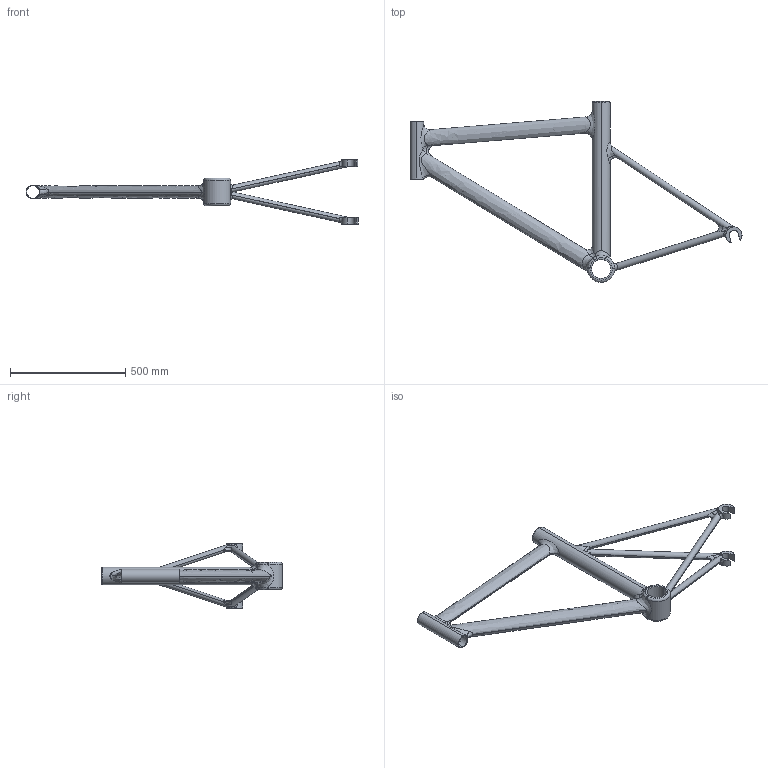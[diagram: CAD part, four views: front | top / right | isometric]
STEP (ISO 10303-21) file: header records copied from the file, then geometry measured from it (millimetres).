
FILE_DESCRIPTION (( 'STEP AP214' ), '1' );
FILE_NAME ('velo_cadre.STEP', '2018-01-18T15:55:16', ( '' ), ( '' ), 'SwSTEP 2.0', 'SolidWorks 2017', '' );
FILE_SCHEMA (( 'AUTOMOTIVE_DESIGN' ));
Length unit declared in the file: millimetre
Products named in the file (1): velo_cadre
Bounding box: 1441.4 x 785.73 x 280 mm (x, y, z)
Volume: 3052989.8 mm3; surface area: 1480388.1 mm2
Topology: 1 solids, 6 shells, 160 faces, 400 edges, 250 vertices
Faces by surface type: cylinder 64, bspline 53, torus 22, plane 21
Entity records: 17624 total; most frequent: CARTESIAN_POINT 14330, ORIENTED_EDGE 800, DIRECTION 526, EDGE_CURVE 400, VERTEX_POINT 250, AXIS2_PLACEMENT_3D 234, B_SPLINE_CURVE_WITH_KNOTS 185, EDGE_LOOP 168
